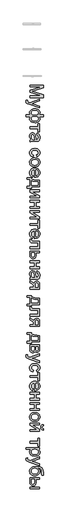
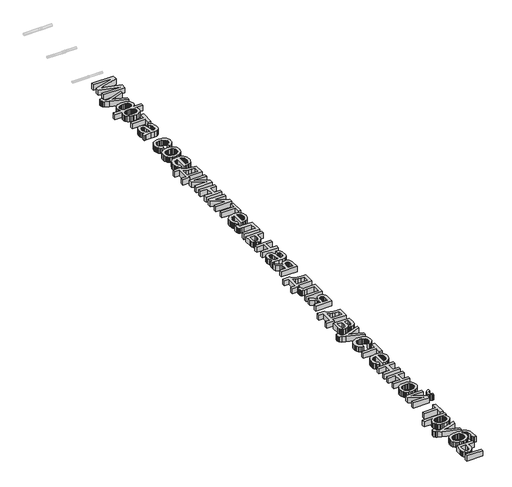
# One storey, part 27 of 33: 1 proxy.
"""IFC4 building model written with IfcOpenShell, lengths in millimetres."""

from ifc_helpers import new_model, si_unit, origin, origin_with_axes, place, context, project, spatial, polyline, outline, extrude, element, save

model = new_model("IFC4")

# Units and contexts
model_context = context("Model", 3, world=origin())
ifc_project = project(units=[si_unit("LENGTHUNIT", "METRE", prefix="MILLI")], contexts=[model_context])

# Site, building, storey
site = spatial("IfcSite", under=ifc_project)
building = spatial("IfcBuilding", under=site)
storey = spatial("IfcBuildingStorey", under=building, Name="Уровень 1", Elevation=0.0)

# Proxy
placement = place(None, origin())
element("IfcBuildingElementProxy", 1, Name="Надпись на модели 1", ObjectType="Надпись на модели 1", at=placement, inside=storey, context=model_context, shape_type="SweptSolid", body=[
    extrude(outline(polyline([(89124.4625724, -566.9517531), (89715.2318032, -566.9517531), (89715.2318032, -694.0190607), (89298.8375724, -814.8844454), (89211.8664186, -839.2594454), (89306.0491109, -865.6536761), (89715.2318032, -984.49983), (89715.2318032, -1111.5671377), (89124.4625724, -1111.5671377), (89124.4625724, -1037.7209838), (89641.3856493, -1037.7209838), (89124.4625724, -889.3075223), (89124.4625724, -789.2113684), (89641.3856493, -640.7979069), (89124.4625724, -640.7979069), (89124.4625724, -566.9517531)])), origin_with_axes(), (0.0, 0.0, 1.0), 150.0),
    extrude(outline(polyline([(88958.3087262, -1231.5671377), (89029.4144955, -1222.3363684), (89022.9241109, -1259.8363684), (89024.9613705, -1279.5599261), (89031.0731493, -1294.8844454), (89040.8267551, -1306.8195415), (89053.7894955, -1316.37483), (89108.1644955, -1336.5671377), (89126.0491109, -1342.3363684), (89558.3087262, -1185.4132915), (89558.3087262, -1263.2979069), (89317.4433416, -1346.5190607), (89221.0971878, -1375.5094454), (89306.1933416, -1404.49983), (89558.3087262, -1490.0286761), (89558.3087262, -1567.3363684), (89114.077957, -1416.3267531), (89017.7318032, -1377.0959838), (88986.9745916, -1357.0118492), (88965.6644955, -1334.2594454), (88953.2245916, -1307.8291569), (88949.077957, -1276.7113684), (88951.3856493, -1255.3291569), (88958.3087262, -1231.5671377)])), origin_with_axes(), (0.0, 0.0, 1.0), 150.0),
    extrude(outline(polyline([(89715.2318032, -1877.7209838), (89715.2318032, -1951.5671377), (89516.6260339, -1951.5671377), (89539.0358897, -1973.9769934), (89554.9193032, -1998.5142531), (89564.3844474, -2025.0707434), (89567.5394955, -2053.5382915), (89563.5280772, -2087.725491), (89551.4938224, -2118.171705), (89531.4367311, -2144.8769333), (89503.3568032, -2167.8411761), (89469.1921397, -2186.2982074), (89430.8808416, -2199.4818011), (89388.4229089, -2207.3919574), (89341.8183416, -2210.0286761), (89293.4875123, -2207.1891329), (89250.0334859, -2198.6705031), (89211.4562623, -2184.4727867), (89177.7558416, -2164.5959838), (89150.4015748, -2140.5004309), (89130.8628128, -2113.6464646), (89119.1395556, -2084.0340848), (89115.2318032, -2051.6632915), (89117.0346878, -2029.2714646), (89122.4433416, -2006.5190607), (89135.8928609, -1981.3147338), (89161.8183416, -1951.5671377), (88958.3087262, -1951.5671377), (88958.3087262, -1877.7209838), (89161.8183416, -1877.7209838), (89141.4818032, -1855.2570415), (89126.9144955, -1830.5575223), (89118.1524762, -1803.6945415), (89115.2318032, -1774.7402146), (89118.9637743, -1742.7570415), (89130.1596878, -1712.8652146), (89148.8195436, -1685.0647338), (89174.9433416, -1659.3555992), (89208.0172599, -1637.7750704), (89247.5274762, -1622.3604069), (89293.4739907, -1613.1116088), (89345.8568032, -1610.0286761), (89391.0461061, -1612.8186401), (89432.4313224, -1621.1885319), (89470.0124522, -1635.1383516), (89503.7894955, -1654.6680992), (89531.6801205, -1678.9123901), (89551.6019955, -1707.0058396), (89563.5551205, -1738.9484478), (89567.5394955, -1774.7402146), (89564.3844474, -1804.8303588), (89554.9193032, -1831.9277146), (89539.0358897, -1856.1765127), (89516.6260339, -1877.7209838), (89715.2318032, -1877.7209838)]), holes=[polyline([(89340.0875724, -1951.1344454), (89299.0403969, -1952.6714045), (89265.3219474, -1957.2822819), (89238.9322238, -1964.9670776), (89219.8712262, -1975.7257915), (89206.399171, -1988.8012122), (89196.7762743, -2003.4361281), (89191.0025363, -2019.6305391), (89189.077957, -2037.3844454), (89191.4442431, -2057.1125103), (89198.5431012, -2075.3351665), (89210.3745315, -2092.0524141), (89226.9385339, -2107.2642531), (89248.4875123, -2119.9159958), (89275.2738705, -2128.952955), (89307.2976085, -2134.3751305), (89344.5587262, -2136.1825223), (89379.8051205, -2134.514854), (89410.2558416, -2129.5118492), (89435.9108897, -2121.1735079), (89456.7702647, -2109.49983), (89472.9241109, -2095.2119694), (89484.4625724, -2079.03108), (89491.3856493, -2060.9571617), (89493.6933416, -2040.9902146), (89491.2909979, -2020.0181593), (89484.0839666, -2001.8135319), (89472.0722479, -1986.3763324), (89455.2558416, -1973.7065607), (89433.6437623, -1963.8312603), (89407.2450243, -1956.7774742), (89376.0596277, -1952.5452026), (89340.0875724, -1951.1344454)]), polyline([(89347.4433416, -1683.87483), (89308.2756734, -1685.7227867), (89275.0034378, -1691.2666569), (89247.6266349, -1700.5064406), (89226.1452647, -1713.4421377), (89209.9283176, -1729.1182194), (89198.3447839, -1746.5791569), (89191.3946637, -1765.8249502), (89189.077957, -1786.8555992), (89191.3811421, -1808.3414766), (89198.2906974, -1826.9337242), (89209.8066229, -1842.632342), (89225.9289186, -1855.43733), (89246.6575844, -1865.3757314), (89271.9926205, -1872.4745896), (89301.9340267, -1876.7339045), (89336.4818032, -1878.1536761), (89373.3282575, -1876.6617891), (89405.2618512, -1872.1861281), (89432.2825844, -1864.726693), (89454.390457, -1854.2834838), (89471.585469, -1840.8294574), (89483.8676205, -1824.3375704), (89491.2369113, -1804.8078228), (89493.6933416, -1782.2402146), (89491.2955051, -1761.4709838), (89484.1019955, -1742.7209838), (89472.1128128, -1725.9902146), (89455.327957, -1711.2786761), (89434.1981493, -1699.2894934), (89409.1741109, -1690.7257915), (89380.2558416, -1685.5875704), (89347.4433416, -1683.87483)])]), origin_with_axes(), (0.0, 0.0, 1.0), 150.0),
    extrude(outline(polyline([(89558.3087262, -2265.4132915), (89558.3087262, -2616.1825223), (89484.4625724, -2616.1825223), (89484.4625724, -2477.7209838), (89124.4625724, -2477.7209838), (89124.4625724, -2403.87483), (89484.4625724, -2403.87483), (89484.4625724, -2265.4132915), (89558.3087262, -2265.4132915)])), origin_with_axes(), (0.0, 0.0, 1.0), 150.0),
    extrude(outline(polyline([(89179.8471878, -2957.7209838), (89149.5947839, -2922.4385319), (89129.7991109, -2886.1104069), (89118.8736301, -2847.9072819), (89115.2318032, -2806.99983), (89117.422308, -2774.1197218), (89123.9938224, -2745.2870896), (89134.9463464, -2720.5019333), (89150.2798801, -2699.7642531), (89169.0208657, -2683.3895535), (89190.1957455, -2671.6933396), (89213.8045195, -2664.6756112), (89239.8471878, -2662.3363684), (89270.4601686, -2665.8700223), (89298.2606493, -2676.4709838), (89322.0587262, -2692.8231473), (89340.6644955, -2713.6104069), (89354.7269955, -2738.0394934), (89364.8952647, -2765.3171377), (89376.0010339, -2829.2113684), (89387.6837262, -2904.7161761), (89401.3856493, -2957.2882915), (89417.827957, -2957.7209838), (89450.7846878, -2952.6368492), (89462.9902166, -2946.2816809), (89472.3471878, -2937.3844454), (89481.6861301, -2922.0058396), (89488.3568032, -2903.2738684), (89493.6933416, -2855.74983), (89490.1416589, -2811.7594454), (89479.4866109, -2781.0382915), (89459.781082, -2760.0887723), (89429.077957, -2745.4132915), (89438.3087262, -2671.5671377), (89478.6933416, -2684.3856473), (89510.4241109, -2703.5142531), (89534.6909378, -2730.7378107), (89552.6837262, -2767.8411761), (89563.8255532, -2813.2197819), (89567.5394955, -2865.2690607), (89564.2582455, -2915.1909357), (89554.4144955, -2954.7642531), (89539.6128128, -2984.6019934), (89521.4577647, -3005.3171377), (89499.0118512, -3019.0551184), (89471.3375724, -3027.9613684), (89406.7221878, -3031.5671377), (89314.8471878, -3031.5671377), (89186.5539186, -3035.3171377), (89154.8411782, -3040.8700223), (89124.4625724, -3050.0286761), (89124.4625724, -2976.1825223), (89150.1356493, -2964.3555992), (89179.8471878, -2957.7209838)]), holes=[polyline([(89327.5394955, -2957.7209838), (89315.2438224, -2908.1055992), (89304.8952647, -2838.5863684), (89292.9241109, -2775.0527146), (89284.7390147, -2758.5202627), (89273.452957, -2746.2786761), (89259.9313224, -2738.7065607), (89245.0394955, -2736.1825223), (89223.0803609, -2741.6813204), (89205.0875724, -2758.1777146), (89193.0803609, -2785.3111281), (89189.077957, -2822.7209838), (89193.4950243, -2862.3844454), (89206.7462262, -2897.4325223), (89226.2714666, -2925.8459838), (89249.5106493, -2945.6055992), (89273.452957, -2954.3676184), (89306.6260339, -2957.2882915), (89327.5394955, -2957.7209838)])]), origin_with_axes(), (0.0, 0.0, 1.0), 150.0),
    extrude(outline(polyline([(89281.3856493, -3640.7979069), (89272.1548801, -3714.6440607), (89237.3096277, -3706.6122098), (89206.4757936, -3694.0551184), (89179.6533777, -3676.9727867), (89156.8423801, -3655.3652146), (89138.6377527, -3630.1428588), (89125.6344474, -3602.2161761), (89117.8324642, -3571.5851665), (89115.2318032, -3538.24983), (89118.8601085, -3496.8330631), (89129.7450243, -3459.6981473), (89147.8865508, -3426.8450824), (89173.2846878, -3398.2738684), (89205.461671, -3375.147366), (89243.9397359, -3358.6284357), (89288.7188825, -3348.7170776), (89339.7991109, -3345.4132915), (89405.5142551, -3351.0563204), (89435.08607, -3358.1101064), (89462.4673801, -3367.9854069), (89487.1083056, -3380.74983), (89508.4589666, -3396.4709838), (89526.5193633, -3415.1488684), (89541.2894955, -3436.7834838), (89552.7738705, -3460.3967651), (89560.9769955, -3485.0106473), (89565.8988705, -3510.6251305), (89567.5394955, -3537.2402146), (89565.2858897, -3570.0031353), (89558.5250724, -3599.6380511), (89547.2570436, -3626.1449622), (89531.4818032, -3649.5238684), (89511.5599282, -3669.3781353), (89487.8519955, -3685.3111281), (89460.3580051, -3697.3228468), (89429.077957, -3705.4132915), (89419.8471878, -3631.5671377), (89452.0647359, -3618.171705), (89475.1596878, -3597.31233), (89489.0599282, -3570.1428588), (89493.6933416, -3537.8171377), (89491.4126926, -3512.725491), (89484.5707455, -3490.0947819), (89473.1675003, -3469.9250103), (89457.202957, -3452.2161761), (89436.3075243, -3437.7976064), (89410.1116109, -3427.4986281), (89378.6152166, -3421.319241), (89341.8183416, -3419.2594454), (89304.4670796, -3421.2741689), (89272.6056012, -3427.3183396), (89246.2339065, -3437.3919574), (89225.3519955, -3451.4950223), (89209.4821037, -3468.8522939), (89198.1464666, -3488.6885319), (89191.3450844, -3511.0037362), (89189.077957, -3535.7979069), (89194.7390147, -3574.0370896), (89201.8153368, -3590.5740487), (89211.7221878, -3605.3892531), (89224.5677407, -3618.0680391), (89240.4601686, -3628.1957434), (89259.3994714, -3635.772366), (89281.3856493, -3640.7979069)])), origin_with_axes(), (0.0, 0.0, 1.0), 150.0),
    extrude(outline(polyline([(89341.3856493, -3760.7979069), (89397.5725484, -3764.7912963), (89445.9890147, -3776.7714646), (89486.6350484, -3796.7384117), (89519.5106493, -3824.6921377), (89540.5232695, -3852.8351665), (89555.5322839, -3883.8988684), (89564.5376926, -3917.8832434), (89567.5394955, -3954.7882915), (89563.8841469, -3995.5289766), (89552.9181012, -4032.3664165), (89534.6413585, -4065.3006112), (89509.0539186, -4094.3315607), (89477.0211662, -4118.0259718), (89439.4084859, -4134.9505511), (89396.2158777, -4145.1052987), (89347.4433416, -4148.4902146), (89307.9150964, -4146.9938204), (89272.8399762, -4142.5046377), (89242.2179811, -4135.0226665), (89216.0491109, -4124.5479069), (89193.445445, -4111.211068), (89173.5190628, -4095.1428588), (89156.2699642, -4076.3432795), (89141.6981493, -4054.81233), (89130.1191229, -4031.3883516), (89121.8483897, -4006.9096857), (89116.8859498, -3981.3763324), (89115.2318032, -3954.7882915), (89118.8736301, -3913.4526545), (89129.7991109, -3876.2726665), (89148.0082455, -3843.2483276), (89173.5010339, -3814.3796377), (89205.8447839, -3790.9376305), (89244.6068032, -3774.1933396), (89289.7870916, -3764.1467651), (89341.3856493, -3760.7979069)]), holes=[polyline([(89341.5298801, -3834.6440607), (89305.71107, -3836.780479), (89274.6969474, -3843.1897338), (89248.4875123, -3853.8718252), (89227.0827647, -3868.8267531), (89210.4556613, -3887.0178588), (89198.5791589, -3907.4084838), (89191.4532575, -3929.9986281), (89189.077957, -3954.7882915), (89191.4667791, -3979.4517531), (89198.6332455, -4001.9517531), (89210.5773561, -4022.2882915), (89227.2991109, -4040.4613684), (89248.9156974, -4055.4162963), (89275.5443032, -4066.0983877), (89307.1849282, -4072.5076425), (89343.8375724, -4074.6440607), (89378.5205652, -4072.4941208), (89408.7233897, -4066.0443011), (89434.446046, -4055.2946016), (89455.6885339, -4040.2450223), (89472.3156373, -4022.0043372), (89484.1921397, -4001.6813204), (89491.3180412, -3979.2759718), (89493.6933416, -3954.7882915), (89491.3270556, -3929.9986281), (89484.2281974, -3907.4084838), (89472.3967671, -3887.0178588), (89455.8327647, -3868.8267531), (89434.4911181, -3853.8718252), (89408.3267551, -3843.1897338), (89377.3396758, -3836.780479), (89341.5298801, -3834.6440607)])]), origin_with_axes(), (0.0, 0.0, 1.0), 150.0),
    extrude(outline(polyline([(89253.6933416, -4535.3171377), (89244.4625724, -4607.7209838), (89215.4631734, -4596.6197218), (89189.9072839, -4581.6332434), (89167.7949041, -4562.7615487), (89149.1260339, -4540.0046377), (89134.297308, -4513.5968853), (89123.7053609, -4483.7726665), (89117.3501926, -4450.5319814), (89115.2318032, -4413.87483), (89118.8871517, -4368.0545175), (89129.8531974, -4327.2281954), (89148.1299402, -4291.3958636), (89173.7173801, -4260.5575223), (89205.9033777, -4235.7588444), (89243.9757936, -4218.0455031), (89287.9346277, -4207.4174982), (89337.7798801, -4203.87483), (89389.3153368, -4207.4535559), (89434.7390147, -4218.1897338), (89474.0509137, -4236.0833636), (89507.2510339, -4261.1344454), (89533.6272359, -4291.8916569), (89552.4673801, -4326.9036761), (89563.7714666, -4366.1705031), (89567.5394955, -4409.6921377), (89563.7804811, -4451.8120295), (89552.5034378, -4489.9024742), (89533.7083657, -4523.9634718), (89507.3952647, -4553.9950223), (89474.2672599, -4578.5097458), (89435.0274762, -4596.0202627), (89389.6759137, -4606.5265728), (89338.2125724, -4610.0286761), (89318.3087262, -4609.5959838), (89318.3087262, -4277.7209838), (89288.8405772, -4281.9983276), (89263.0322839, -4290.5034357), (89240.8838464, -4303.2363083), (89222.3952647, -4320.1969454), (89207.8189426, -4340.4478468), (89197.4072839, -4363.0515127), (89191.1602887, -4388.007943), (89189.077957, -4415.3171377), (89192.9361301, -4454.6200223), (89204.5106493, -4487.7209838), (89224.5226686, -4514.6200223), (89253.6933416, -4535.3171377)]), holes=[polyline([(89392.1548801, -4277.7209838), (89392.1548801, -4536.1825223), (89431.1693032, -4526.1945415), (89446.5118512, -4517.6037963), (89459.077957, -4506.6152146), (89474.2221878, -4486.4769934), (89485.0394955, -4463.56233), (89491.5298801, -4437.8712242), (89493.6933416, -4409.4036761), (89491.9670796, -4383.4376305), (89486.7882936, -4359.6260319), (89478.1569835, -4337.9688805), (89466.0731493, -4318.4661761), (89451.0956854, -4302.100491), (89433.7834859, -4289.8543973), (89414.1365508, -4281.7278949), (89392.1548801, -4277.7209838)])]), origin_with_axes(), (0.0, 0.0, 1.0), 150.0),
    extrude(outline(polyline([(89558.3087262, -4748.4902146), (89558.3087262, -5025.4132915), (89198.3087262, -5025.4132915), (89198.3087262, -5080.7979069), (89004.4625724, -5080.7979069), (89004.4625724, -5006.9517531), (89124.4625724, -5006.9517531), (89124.4625724, -4702.3363684), (89004.4625724, -4702.3363684), (89004.4625724, -4628.4902146), (89198.3087262, -4628.4902146), (89198.3087262, -4674.6440607), (89226.1768152, -4692.6774141), (89258.9397359, -4708.1957434), (89296.5974883, -4721.1990487), (89339.1500724, -4731.68733), (89438.9397359, -4745.1188204), (89558.3087262, -4748.4902146)]), holes=[polyline([(89484.4625724, -4813.1055992), (89394.0479089, -4807.0479069), (89316.2173801, -4795.7979069), (89250.9709859, -4779.3555992), (89198.3087262, -4757.7209838), (89198.3087262, -4951.5671377), (89484.4625724, -4951.5671377), (89484.4625724, -4813.1055992)])]), origin_with_axes(), (0.0, 0.0, 1.0), 150.0),
    extrude(outline(polyline([(89558.3087262, -5163.87483), (89558.3087262, -5237.7209838), (89227.4433416, -5237.7209838), (89558.3087262, -5419.1632915), (89558.3087262, -5514.6440607), (89124.4625724, -5514.6440607), (89124.4625724, -5440.7979069), (89453.3087262, -5440.7979069), (89124.4625724, -5260.5094454), (89124.4625724, -5163.87483), (89558.3087262, -5163.87483)])), origin_with_axes(), (0.0, 0.0, 1.0), 150.0),
    extrude(outline(polyline([(89558.3087262, -5625.4132915), (89558.3087262, -5699.2594454), (89392.1548801, -5699.2594454), (89392.1548801, -5893.1055992), (89558.3087262, -5893.1055992), (89558.3087262, -5966.9517531), (89124.4625724, -5966.9517531), (89124.4625724, -5893.1055992), (89318.3087262, -5893.1055992), (89318.3087262, -5699.2594454), (89124.4625724, -5699.2594454), (89124.4625724, -5625.4132915), (89558.3087262, -5625.4132915)])), origin_with_axes(), (0.0, 0.0, 1.0), 150.0),
    extrude(outline(polyline([(89558.3087262, -6077.7209838), (89558.3087262, -6151.5671377), (89227.4433416, -6151.5671377), (89558.3087262, -6333.0094454), (89558.3087262, -6428.4902146), (89124.4625724, -6428.4902146), (89124.4625724, -6354.6440607), (89453.3087262, -6354.6440607), (89124.4625724, -6174.3555992), (89124.4625724, -6077.7209838), (89558.3087262, -6077.7209838)])), origin_with_axes(), (0.0, 0.0, 1.0), 150.0),
    extrude(outline(polyline([(89558.3087262, -6502.3363684), (89558.3087262, -6853.1055992), (89484.4625724, -6853.1055992), (89484.4625724, -6714.6440607), (89124.4625724, -6714.6440607), (89124.4625724, -6640.7979069), (89484.4625724, -6640.7979069), (89484.4625724, -6502.3363684), (89558.3087262, -6502.3363684)])), origin_with_axes(), (0.0, 0.0, 1.0), 150.0),
    extrude(outline(polyline([(89253.6933416, -7221.4709838), (89244.4625724, -7293.87483), (89215.4631734, -7282.773568), (89189.9072839, -7267.7870896), (89167.7949041, -7248.9153949), (89149.1260339, -7226.1584838), (89134.297308, -7199.7507314), (89123.7053609, -7169.9265127), (89117.3501926, -7136.6858276), (89115.2318032, -7100.0286761), (89118.8871517, -7054.2083636), (89129.8531974, -7013.3820415), (89148.1299402, -6977.5497098), (89173.7173801, -6946.7113684), (89205.9033777, -6921.9126906), (89243.9757936, -6904.1993492), (89287.9346277, -6893.5713444), (89337.7798801, -6890.0286761), (89389.3153368, -6893.6074021), (89434.7390147, -6904.34358), (89474.0509137, -6922.2372098), (89507.2510339, -6947.2882915), (89533.6272359, -6978.0455031), (89552.4673801, -7013.0575223), (89563.7714666, -7052.3243492), (89567.5394955, -7095.8459838), (89563.7804811, -7137.9658756), (89552.5034378, -7176.0563204), (89533.7083657, -7210.117318), (89507.3952647, -7240.1488684), (89474.2672599, -7264.663592), (89435.0274762, -7282.1741088), (89389.6759137, -7292.6804189), (89338.2125724, -7296.1825223), (89318.3087262, -7295.74983), (89318.3087262, -6963.87483), (89288.8405772, -6968.1521737), (89263.0322839, -6976.6572819), (89240.8838464, -6989.3901545), (89222.3952647, -7006.3507915), (89207.8189426, -7026.601693), (89197.4072839, -7049.2053588), (89191.1602887, -7074.1617891), (89189.077957, -7101.4709838), (89192.9361301, -7140.7738684), (89204.5106493, -7173.87483), (89224.5226686, -7200.7738684), (89253.6933416, -7221.4709838)]), holes=[polyline([(89392.1548801, -6963.87483), (89392.1548801, -7222.3363684), (89431.1693032, -7212.3483877), (89446.5118512, -7203.7576425), (89459.077957, -7192.7690607), (89474.2221878, -7172.6308396), (89485.0394955, -7149.7161761), (89491.5298801, -7124.0250704), (89493.6933416, -7095.5575223), (89491.9670796, -7069.5914766), (89486.7882936, -7045.7798781), (89478.1569835, -7024.1227266), (89466.0731493, -7004.6200223), (89451.0956854, -6988.2543372), (89433.7834859, -6976.0082434), (89414.1365508, -6967.881741), (89392.1548801, -6963.87483)])]), origin_with_axes(), (0.0, 0.0, 1.0), 150.0),
    extrude(outline(polyline([(89558.3087262, -7406.9517531), (89558.3087262, -7739.2594454), (89124.8952647, -7739.2594454), (89124.8952647, -7665.4132915), (89484.4625724, -7665.4132915), (89484.4625724, -7480.7979069), (89277.4914186, -7480.7979069), (89217.4193032, -7479.5539165), (89182.0106493, -7475.8219454), (89160.3940628, -7466.5010319), (89141.6981493, -7448.4902146), (89128.7714666, -7421.1584838), (89124.4625724, -7383.87483), (89128.2125724, -7323.87483), (89198.3087262, -7323.87483), (89198.3087262, -7356.9036761), (89202.8519955, -7390.2930992), (89208.7293993, -7398.640455), (89217.2750724, -7403.6344454), (89281.6741109, -7406.9517531), (89558.3087262, -7406.9517531)])), origin_with_axes(), (0.0, 0.0, 1.0), 150.0),
    extrude(outline(polyline([(89558.3087262, -7850.0286761), (89558.3087262, -7923.87483), (89401.3856493, -7923.87483), (89401.3856493, -8008.9709838), (89399.0734498, -8048.2558396), (89392.1368512, -8082.7450223), (89380.5758537, -8112.4385319), (89364.390457, -8137.3363684), (89344.1395556, -8157.0238684), (89320.3820436, -8171.0863684), (89293.117921, -8179.5238684), (89262.3471878, -8182.3363684), (89234.8937623, -8179.9430391), (89209.5046397, -8172.7630511), (89186.17982, -8160.7964045), (89164.9193032, -8144.0430992), (89147.2194835, -8122.0253708), (89134.5767551, -8094.265455), (89126.9911181, -8060.7633516), (89124.4625724, -8021.5190607), (89124.4625724, -7850.0286761), (89558.3087262, -7850.0286761)]), holes=[polyline([(89198.3087262, -7923.87483), (89198.3087262, -7992.8171377), (89202.1849282, -8046.3087242), (89207.0301806, -8066.3342651), (89213.8135339, -8081.8796377), (89222.6521758, -8093.5217651), (89233.6632936, -8101.8375704), (89246.8468873, -8106.8270535), (89262.202957, -8108.4902146), (89286.3255532, -8103.5683396), (89307.6356493, -8088.8027146), (89316.343582, -8075.9706833), (89322.5635339, -8057.1620896), (89327.5394955, -8001.6152146), (89327.5394955, -7923.87483), (89198.3087262, -7923.87483)])]), origin_with_axes(), (0.0, 0.0, 1.0), 150.0),
    extrude(outline(polyline([(89558.3087262, -8274.6440607), (89558.3087262, -8348.4902146), (89392.1548801, -8348.4902146), (89392.1548801, -8542.3363684), (89558.3087262, -8542.3363684), (89558.3087262, -8616.1825223), (89124.4625724, -8616.1825223), (89124.4625724, -8542.3363684), (89318.3087262, -8542.3363684), (89318.3087262, -8348.4902146), (89124.4625724, -8348.4902146), (89124.4625724, -8274.6440607), (89558.3087262, -8274.6440607)])), origin_with_axes(), (0.0, 0.0, 1.0), 150.0),
    extrude(outline(polyline([(89179.8471878, -9003.87483), (89149.5947839, -8968.5923781), (89129.7991109, -8932.2642531), (89118.8736301, -8894.0611281), (89115.2318032, -8853.1536761), (89117.422308, -8820.273568), (89123.9938224, -8791.4409357), (89134.9463464, -8766.6557795), (89150.2798801, -8745.9180992), (89169.0208657, -8729.5433997), (89190.1957455, -8717.8471857), (89213.8045195, -8710.8294574), (89239.8471878, -8708.4902146), (89270.4601686, -8712.0238684), (89298.2606493, -8722.62483), (89322.0587262, -8738.9769934), (89340.6644955, -8759.7642531), (89354.7269955, -8784.1933396), (89364.8952647, -8811.4709838), (89376.0010339, -8875.3652146), (89387.6837262, -8950.8700223), (89401.3856493, -9003.4421377), (89417.827957, -9003.87483), (89450.7846878, -8998.7906954), (89462.9902166, -8992.4355271), (89472.3471878, -8983.5382915), (89481.6861301, -8968.1596857), (89488.3568032, -8949.4277146), (89493.6933416, -8901.9036761), (89490.1416589, -8857.9132915), (89479.4866109, -8827.1921377), (89459.781082, -8806.2426184), (89429.077957, -8791.5671377), (89438.3087262, -8717.7209838), (89478.6933416, -8730.5394934), (89510.4241109, -8749.6680992), (89534.6909378, -8776.8916569), (89552.6837262, -8813.9950223), (89563.8255532, -8859.3736281), (89567.5394955, -8911.4229069), (89564.2582455, -8961.3447819), (89554.4144955, -9000.9180992), (89539.6128128, -9030.7558396), (89521.4577647, -9051.4709838), (89499.0118512, -9065.2089646), (89471.3375724, -9074.1152146), (89406.7221878, -9077.7209838), (89314.8471878, -9077.7209838), (89186.5539186, -9081.4709838), (89154.8411782, -9087.0238684), (89124.4625724, -9096.1825223), (89124.4625724, -9022.3363684), (89150.1356493, -9010.5094454), (89179.8471878, -9003.87483)]), holes=[polyline([(89327.5394955, -9003.87483), (89315.2438224, -8954.2594454), (89304.8952647, -8884.7402146), (89292.9241109, -8821.2065607), (89284.7390147, -8804.6741088), (89273.452957, -8792.4325223), (89259.9313224, -8784.8604069), (89245.0394955, -8782.3363684), (89223.0803609, -8787.8351665), (89205.0875724, -8804.3315607), (89193.0803609, -8831.4649742), (89189.077957, -8868.87483), (89193.4950243, -8908.5382915), (89206.7462262, -8943.5863684), (89226.2714666, -8971.99983), (89249.5106493, -8991.7594454), (89273.452957, -9000.5214646), (89306.6260339, -9003.4421377), (89327.5394955, -9003.87483)])]), origin_with_axes(), (0.0, 0.0, 1.0), 150.0),
    extrude(outline(polyline([(89558.3087262, -9511.5671377), (89124.4625724, -9511.5671377), (89124.4625724, -9437.7209838), (89290.6164186, -9437.7209838), (89290.6164186, -9397.4805992), (89288.2726686, -9365.3892531), (89281.2414186, -9342.6729069), (89260.796707, -9320.7858877), (89218.2125724, -9291.1825223), (89124.4625724, -9232.3363684), (89124.4625724, -9146.9517531), (89243.0202647, -9221.0863684), (89285.5683416, -9253.8267531), (89297.9721878, -9269.2233877), (89304.4625724, -9283.9709838), (89310.4571637, -9256.8555992), (89319.9313224, -9233.4902146), (89332.8850484, -9213.87483), (89349.3183416, -9198.0094454), (89368.1765147, -9185.7678588), (89388.4048801, -9177.0238684), (89410.0034378, -9171.7774742), (89432.9721878, -9170.0286761), (89459.5647359, -9172.4174982), (89483.5250724, -9179.5839646), (89504.8531974, -9191.5280752), (89523.5491109, -9208.24983), (89538.7564426, -9229.4968252), (89549.6188224, -9255.0166569), (89556.1362503, -9284.8093252), (89558.3087262, -9318.87483), (89558.3087262, -9511.5671377)]), holes=[polyline([(89484.4625724, -9437.7209838), (89484.4625724, -9340.3652146), (89480.1897359, -9290.0827627), (89474.8486902, -9273.0950824), (89467.3712262, -9261.5430992), (89448.8195436, -9248.2918973), (89427.3471878, -9243.87483), (89412.1984498, -9245.5019333), (89399.2041589, -9250.3832434), (89388.3643152, -9258.5187603), (89379.6789186, -9269.9084838), (89373.0217671, -9285.4358276), (89368.2666589, -9305.984205), (89364.4625724, -9362.1440607), (89364.4625724, -9437.7209838), (89484.4625724, -9437.7209838)])]), origin_with_axes(), (0.0, 0.0, 1.0), 150.0),
    extrude(outline(polyline([(89558.3087262, -9917.7209838), (89558.3087262, -10194.6440607), (89198.3087262, -10194.6440607), (89198.3087262, -10250.0286761), (89004.4625724, -10250.0286761), (89004.4625724, -10176.1825223), (89124.4625724, -10176.1825223), (89124.4625724, -9871.5671377), (89004.4625724, -9871.5671377), (89004.4625724, -9797.7209838), (89198.3087262, -9797.7209838), (89198.3087262, -9843.87483), (89226.1768152, -9861.9081833), (89258.9397359, -9877.4265127), (89296.5974883, -9890.429818), (89339.1500724, -9900.9180992), (89438.9397359, -9914.3495896), (89558.3087262, -9917.7209838)]), holes=[polyline([(89484.4625724, -9982.3363684), (89394.0479089, -9976.2786761), (89316.2173801, -9965.0286761), (89250.9709859, -9948.5863684), (89198.3087262, -9926.9517531), (89198.3087262, -10120.7979069), (89484.4625724, -10120.7979069), (89484.4625724, -9982.3363684)])]), origin_with_axes(), (0.0, 0.0, 1.0), 150.0),
    extrude(outline(polyline([(89558.3087262, -10370.0286761), (89558.3087262, -10702.3363684), (89124.8952647, -10702.3363684), (89124.8952647, -10628.4902146), (89484.4625724, -10628.4902146), (89484.4625724, -10443.87483), (89277.4914186, -10443.87483), (89217.4193032, -10442.6308396), (89182.0106493, -10438.8988684), (89160.3940628, -10429.577955), (89141.6981493, -10411.5671377), (89128.7714666, -10384.2354069), (89124.4625724, -10346.9517531), (89128.2125724, -10286.9517531), (89198.3087262, -10286.9517531), (89198.3087262, -10319.9805992), (89202.8519955, -10353.3700223), (89208.7293993, -10361.7173781), (89217.2750724, -10366.7113684), (89281.6741109, -10370.0286761), (89558.3087262, -10370.0286761)])), origin_with_axes(), (0.0, 0.0, 1.0), 150.0),
    extrude(outline(polyline([(89558.3087262, -11145.4132915), (89124.4625724, -11145.4132915), (89124.4625724, -11071.5671377), (89290.6164186, -11071.5671377), (89290.6164186, -11031.3267531), (89288.2726686, -10999.2354069), (89281.2414186, -10976.5190607), (89260.796707, -10954.6320415), (89218.2125724, -10925.0286761), (89124.4625724, -10866.1825223), (89124.4625724, -10780.7979069), (89243.0202647, -10854.9325223), (89285.5683416, -10887.6729069), (89297.9721878, -10903.0695415), (89304.4625724, -10917.8171377), (89310.4571637, -10890.7017531), (89319.9313224, -10867.3363684), (89332.8850484, -10847.7209838), (89349.3183416, -10831.8555992), (89368.1765147, -10819.6140127), (89388.4048801, -10810.8700223), (89410.0034378, -10805.6236281), (89432.9721878, -10803.87483), (89459.5647359, -10806.2636521), (89483.5250724, -10813.4301184), (89504.8531974, -10825.374229), (89523.5491109, -10842.0959838), (89538.7564426, -10863.342979), (89549.6188224, -10888.8628107), (89556.1362503, -10918.655479), (89558.3087262, -10952.7209838), (89558.3087262, -11145.4132915)]), holes=[polyline([(89484.4625724, -11071.5671377), (89484.4625724, -10974.2113684), (89480.1897359, -10923.9289165), (89474.8486902, -10906.9412362), (89467.3712262, -10895.3892531), (89448.8195436, -10882.1380511), (89427.3471878, -10877.7209838), (89412.1984498, -10879.3480872), (89399.2041589, -10884.2293973), (89388.3643152, -10892.3649141), (89379.6789186, -10903.7546377), (89373.0217671, -10919.2819814), (89368.2666589, -10939.8303588), (89364.4625724, -10995.9902146), (89364.4625724, -11071.5671377), (89484.4625724, -11071.5671377)])]), origin_with_axes(), (0.0, 0.0, 1.0), 150.0),
    extrude(outline(polyline([(89558.3087262, -11551.5671377), (89558.3087262, -11828.4902146), (89198.3087262, -11828.4902146), (89198.3087262, -11883.87483), (89004.4625724, -11883.87483), (89004.4625724, -11810.0286761), (89124.4625724, -11810.0286761), (89124.4625724, -11505.4132915), (89004.4625724, -11505.4132915), (89004.4625724, -11431.5671377), (89198.3087262, -11431.5671377), (89198.3087262, -11477.7209838), (89226.1768152, -11495.7543372), (89258.9397359, -11511.2726665), (89296.5974883, -11524.2759718), (89339.1500724, -11534.7642531), (89438.9397359, -11548.1957434), (89558.3087262, -11551.5671377)]), holes=[polyline([(89484.4625724, -11616.1825223), (89394.0479089, -11610.12483), (89316.2173801, -11598.87483), (89250.9709859, -11582.4325223), (89198.3087262, -11560.7979069), (89198.3087262, -11754.6440607), (89484.4625724, -11754.6440607), (89484.4625724, -11616.1825223)])]), origin_with_axes(), (0.0, 0.0, 1.0), 150.0),
    extrude(outline(polyline([(89558.3087262, -11966.9517531), (89558.3087262, -12129.6440607), (89555.8387743, -12181.9457434), (89548.4289186, -12218.8507915), (89534.4385339, -12246.0022338), (89512.2269955, -12269.0430992), (89483.2906974, -12284.7822819), (89449.1260339, -12290.0286761), (89421.5959859, -12286.8555992), (89397.8519955, -12277.3363684), (89377.7858897, -12261.4349261), (89361.2894955, -12239.1152146), (89345.9469474, -12266.4469454), (89321.265457, -12288.7305992), (89289.1921397, -12303.5503107), (89251.6741109, -12308.4902146), (89221.4487503, -12304.3886521), (89195.3880532, -12295.9781954), (89173.4920195, -12283.2588444), (89155.7606493, -12266.2305992), (89142.0677407, -12244.8664165), (89132.2870916, -12219.1392531), (89126.4187022, -12189.0491088), (89124.4625724, -12154.5959838), (89124.4625724, -11966.9517531), (89558.3087262, -11966.9517531)]), holes=[polyline([(89392.1548801, -12040.7979069), (89392.1548801, -12113.7786761), (89395.9048801, -12173.9950223), (89401.5298801, -12189.49983), (89410.9048801, -12203.2738684), (89423.3087262, -12212.9553588), (89438.0202647, -12216.1825223), (89450.0184618, -12214.7672579), (89460.0515147, -12210.5214646), (89468.1194234, -12203.4451425), (89474.2221878, -12193.5382915), (89481.9024762, -12162.8531954), (89484.4625724, -12116.0863684), (89484.4625724, -12040.7979069), (89392.1548801, -12040.7979069)]), polyline([(89198.3087262, -12040.7979069), (89198.3087262, -12131.37483), (89201.6440628, -12180.7378107), (89211.6500724, -12211.7113684), (89219.5331854, -12221.311729), (89229.8411782, -12228.3339646), (89257.7318032, -12234.6440607), (89276.2113705, -12231.4890127), (89293.2846878, -12222.0238684), (89306.6440628, -12207.4926184), (89313.9818032, -12189.1392531), (89318.3087262, -12124.1632915), (89318.3087262, -12040.7979069), (89198.3087262, -12040.7979069)])]), origin_with_axes(), (0.0, 0.0, 1.0), 150.0),
    extrude(outline(polyline([(88958.3087262, -12400.7979069), (89029.4144955, -12391.5671377), (89022.9241109, -12429.0671377), (89024.9613705, -12448.7906954), (89031.0731493, -12464.1152146), (89040.8267551, -12476.0503107), (89053.7894955, -12485.6055992), (89108.1644955, -12505.7979069), (89126.0491109, -12511.5671377), (89558.3087262, -12354.6440607), (89558.3087262, -12432.5286761), (89317.4433416, -12515.74983), (89221.0971878, -12544.7402146), (89306.1933416, -12573.7305992), (89558.3087262, -12659.2594454), (89558.3087262, -12736.5671377), (89114.077957, -12585.5575223), (89017.7318032, -12546.3267531), (88986.9745916, -12526.2426184), (88965.6644955, -12503.4902146), (88953.2245916, -12477.0599261), (88949.077957, -12445.9421377), (88951.3856493, -12424.5599261), (88958.3087262, -12400.7979069)])), origin_with_axes(), (0.0, 0.0, 1.0), 150.0),
    extrude(outline(polyline([(89281.3856493, -13074.6440607), (89272.1548801, -13148.4902146), (89237.3096277, -13140.4583636), (89206.4757936, -13127.9012723), (89179.6533777, -13110.8189406), (89156.8423801, -13089.2113684), (89138.6377527, -13063.9890127), (89125.6344474, -13036.06233), (89117.8324642, -13005.4313204), (89115.2318032, -12972.0959838), (89118.8601085, -12930.679217), (89129.7450243, -12893.5443011), (89147.8865508, -12860.6912362), (89173.2846878, -12832.1200223), (89205.461671, -12808.9935199), (89243.9397359, -12792.4745896), (89288.7188825, -12782.5632314), (89339.7991109, -12779.2594454), (89405.5142551, -12784.9024742), (89435.08607, -12791.9562603), (89462.4673801, -12801.8315607), (89487.1083056, -12814.5959838), (89508.4589666, -12830.3171377), (89526.5193633, -12848.9950223), (89541.2894955, -12870.6296377), (89552.7738705, -12894.2429189), (89560.9769955, -12918.8568011), (89565.8988705, -12944.4712843), (89567.5394955, -12971.0863684), (89565.2858897, -13003.8492891), (89558.5250724, -13033.484205), (89547.2570436, -13059.991116), (89531.4818032, -13083.3700223), (89511.5599282, -13103.2242891), (89487.8519955, -13119.1572819), (89460.3580051, -13131.1690006), (89429.077957, -13139.2594454), (89419.8471878, -13065.4132915), (89452.0647359, -13052.0178588), (89475.1596878, -13031.1584838), (89489.0599282, -13003.9890127), (89493.6933416, -12971.6632915), (89491.4126926, -12946.5716449), (89484.5707455, -12923.9409357), (89473.1675003, -12903.7711641), (89457.202957, -12886.06233), (89436.3075243, -12871.6437603), (89410.1116109, -12861.3447819), (89378.6152166, -12855.1653949), (89341.8183416, -12853.1055992), (89304.4670796, -12855.1203228), (89272.6056012, -12861.1644934), (89246.2339065, -12871.2381112), (89225.3519955, -12885.3411761), (89209.4821037, -12902.6984478), (89198.1464666, -12922.5346857), (89191.3450844, -12944.8498901), (89189.077957, -12969.6440607), (89194.7390147, -13007.8832434), (89201.8153368, -13024.4202026), (89211.7221878, -13039.2354069), (89224.5677407, -13051.914193), (89240.4601686, -13062.0418973), (89259.3994714, -13069.6185199), (89281.3856493, -13074.6440607)])), origin_with_axes(), (0.0, 0.0, 1.0), 150.0),
    extrude(outline(polyline([(89558.3087262, -13176.1825223), (89558.3087262, -13526.9517531), (89484.4625724, -13526.9517531), (89484.4625724, -13388.4902146), (89124.4625724, -13388.4902146), (89124.4625724, -13314.6440607), (89484.4625724, -13314.6440607), (89484.4625724, -13176.1825223), (89558.3087262, -13176.1825223)])), origin_with_axes(), (0.0, 0.0, 1.0), 150.0),
    extrude(outline(polyline([(89253.6933416, -13895.3171377), (89244.4625724, -13967.7209838), (89215.4631734, -13956.6197218), (89189.9072839, -13941.6332434), (89167.7949041, -13922.7615487), (89149.1260339, -13900.0046377), (89134.297308, -13873.5968853), (89123.7053609, -13843.7726665), (89117.3501926, -13810.5319814), (89115.2318032, -13773.87483), (89118.8871517, -13728.0545175), (89129.8531974, -13687.2281954), (89148.1299402, -13651.3958636), (89173.7173801, -13620.5575223), (89205.9033777, -13595.7588444), (89243.9757936, -13578.0455031), (89287.9346277, -13567.4174982), (89337.7798801, -13563.87483), (89389.3153368, -13567.4535559), (89434.7390147, -13578.1897338), (89474.0509137, -13596.0833636), (89507.2510339, -13621.1344454), (89533.6272359, -13651.8916569), (89552.4673801, -13686.9036761), (89563.7714666, -13726.1705031), (89567.5394955, -13769.6921377), (89563.7804811, -13811.8120295), (89552.5034378, -13849.9024742), (89533.7083657, -13883.9634718), (89507.3952647, -13913.9950223), (89474.2672599, -13938.5097458), (89435.0274762, -13956.0202627), (89389.6759137, -13966.5265728), (89338.2125724, -13970.0286761), (89318.3087262, -13969.5959838), (89318.3087262, -13637.7209838), (89288.8405772, -13641.9983276), (89263.0322839, -13650.5034357), (89240.8838464, -13663.2363083), (89222.3952647, -13680.1969454), (89207.8189426, -13700.4478468), (89197.4072839, -13723.0515127), (89191.1602887, -13748.007943), (89189.077957, -13775.3171377), (89192.9361301, -13814.6200223), (89204.5106493, -13847.7209838), (89224.5226686, -13874.6200223), (89253.6933416, -13895.3171377)]), holes=[polyline([(89392.1548801, -13637.7209838), (89392.1548801, -13896.1825223), (89431.1693032, -13886.1945415), (89446.5118512, -13877.6037963), (89459.077957, -13866.6152146), (89474.2221878, -13846.4769934), (89485.0394955, -13823.56233), (89491.5298801, -13797.8712242), (89493.6933416, -13769.4036761), (89491.9670796, -13743.4376305), (89486.7882936, -13719.6260319), (89478.1569835, -13697.9688805), (89466.0731493, -13678.4661761), (89451.0956854, -13662.100491), (89433.7834859, -13649.8543973), (89414.1365508, -13641.7278949), (89392.1548801, -13637.7209838)])]), origin_with_axes(), (0.0, 0.0, 1.0), 150.0),
    extrude(outline(polyline([(89558.3087262, -14043.87483), (89558.3087262, -14117.7209838), (89392.1548801, -14117.7209838), (89392.1548801, -14311.5671377), (89558.3087262, -14311.5671377), (89558.3087262, -14385.4132915), (89124.4625724, -14385.4132915), (89124.4625724, -14311.5671377), (89318.3087262, -14311.5671377), (89318.3087262, -14117.7209838), (89124.4625724, -14117.7209838), (89124.4625724, -14043.87483), (89558.3087262, -14043.87483)])), origin_with_axes(), (0.0, 0.0, 1.0), 150.0),
    extrude(outline(polyline([(89558.3087262, -14496.1825223), (89558.3087262, -14570.0286761), (89392.1548801, -14570.0286761), (89392.1548801, -14763.87483), (89558.3087262, -14763.87483), (89558.3087262, -14837.7209838), (89124.4625724, -14837.7209838), (89124.4625724, -14763.87483), (89318.3087262, -14763.87483), (89318.3087262, -14570.0286761), (89124.4625724, -14570.0286761), (89124.4625724, -14496.1825223), (89558.3087262, -14496.1825223)])), origin_with_axes(), (0.0, 0.0, 1.0), 150.0),
    extrude(outline(polyline([(89341.3856493, -14930.0286761), (89397.5725484, -14934.0220656), (89445.9890147, -14946.0022338), (89486.6350484, -14965.9691809), (89519.5106493, -14993.9229069), (89540.5232695, -15022.0659357), (89555.5322839, -15053.1296377), (89564.5376926, -15087.1140127), (89567.5394955, -15124.0190607), (89563.8841469, -15164.7597458), (89552.9181012, -15201.5971857), (89534.6413585, -15234.5313805), (89509.0539186, -15263.56233), (89477.0211662, -15287.256741), (89439.4084859, -15304.1813204), (89396.2158777, -15314.336068), (89347.4433416, -15317.7209838), (89307.9150964, -15316.2245896), (89272.8399762, -15311.7354069), (89242.2179811, -15304.2534357), (89216.0491109, -15293.7786761), (89193.445445, -15280.4418372), (89173.5190628, -15264.3736281), (89156.2699642, -15245.5740487), (89141.6981493, -15224.0430992), (89130.1191229, -15200.6191208), (89121.8483897, -15176.140455), (89116.8859498, -15150.6071016), (89115.2318032, -15124.0190607), (89118.8736301, -15082.6834237), (89129.7991109, -15045.5034357), (89148.0082455, -15012.4790968), (89173.5010339, -14983.6104069), (89205.8447839, -14960.1683997), (89244.6068032, -14943.4241088), (89289.7870916, -14933.3775343), (89341.3856493, -14930.0286761)]), holes=[polyline([(89341.5298801, -15003.87483), (89305.71107, -15006.0112482), (89274.6969474, -15012.4205031), (89248.4875123, -15023.1025944), (89227.0827647, -15038.0575223), (89210.4556613, -15056.2486281), (89198.5791589, -15076.6392531), (89191.4532575, -15099.2293973), (89189.077957, -15124.0190607), (89191.4667791, -15148.6825223), (89198.6332455, -15171.1825223), (89210.5773561, -15191.5190607), (89227.2991109, -15209.6921377), (89248.9156974, -15224.6470656), (89275.5443032, -15235.3291569), (89307.1849282, -15241.7384117), (89343.8375724, -15243.87483), (89378.5205652, -15241.7248901), (89408.7233897, -15235.2750704), (89434.446046, -15224.5253708), (89455.6885339, -15209.4757915), (89472.3156373, -15191.2351064), (89484.1921397, -15170.9120896), (89491.3180412, -15148.506741), (89493.6933416, -15124.0190607), (89491.3270556, -15099.2293973), (89484.2281974, -15076.6392531), (89472.3967671, -15056.2486281), (89455.8327647, -15038.0575223), (89434.4911181, -15023.1025944), (89408.3267551, -15012.4205031), (89377.3396758, -15006.0112482), (89341.5298801, -15003.87483)])]), origin_with_axes(), (0.0, 0.0, 1.0), 150.0),
    extrude(outline(polyline([(89715.2318032, -15640.7979069), (89715.2318032, -15696.1825223), (89690.0319835, -15691.7248901), (89667.9421397, -15684.265455), (89648.9622719, -15673.804217), (89633.0923801, -15660.3411761), (89620.5668392, -15644.1467651), (89611.6200243, -15625.4914165), (89606.2519354, -15604.3751305), (89604.4625724, -15580.7979069), (89606.2384137, -15555.1879309), (89611.5659378, -15532.3003107), (89620.4451445, -15512.1350463), (89632.8760339, -15494.6921377), (89648.6783176, -15480.2239886), (89667.671707, -15468.9830031), (89689.8562022, -15460.9691809), (89715.2318032, -15456.1825223), (89715.2318032, -15511.5671377), (89690.9108897, -15519.3555992), (89673.6212262, -15532.3363684), (89663.2906974, -15550.5815607), (89659.8471878, -15574.1632915), (89663.1825243, -15600.7738684), (89673.1885339, -15620.0286761), (89690.3700243, -15633.0094454), (89715.2318032, -15640.7979069)])), origin_with_axes(), (0.0, 0.0, 1.0), 150.0),
    extrude(outline(polyline([(89558.3087262, -15400.7979069), (89558.3087262, -15474.6440607), (89227.4433416, -15474.6440607), (89558.3087262, -15656.0863684), (89558.3087262, -15751.5671377), (89124.4625724, -15751.5671377), (89124.4625724, -15677.7209838), (89453.3087262, -15677.7209838), (89124.4625724, -15497.4325223), (89124.4625724, -15400.7979069), (89558.3087262, -15400.7979069)])), origin_with_axes(), (0.0, 0.0, 1.0), 150.0),
    extrude(outline(polyline([(89558.3087262, -16056.1825223), (89558.3087262, -16406.9517531), (89484.4625724, -16406.9517531), (89484.4625724, -16268.4902146), (89124.4625724, -16268.4902146), (89124.4625724, -16194.6440607), (89484.4625724, -16194.6440607), (89484.4625724, -16056.1825223), (89558.3087262, -16056.1825223)])), origin_with_axes(), (0.0, 0.0, 1.0), 150.0),
    extrude(outline(polyline([(88958.3087262, -16471.5671377), (89558.3087262, -16471.5671377), (89558.3087262, -16545.4132915), (89485.9048801, -16545.4132915), (89521.6200243, -16569.49983), (89547.1308416, -16596.4709838), (89562.437332, -16627.9132915), (89567.5394955, -16665.4132915), (89565.7546397, -16691.1674982), (89560.4000724, -16715.3531954), (89551.4757936, -16737.9703829), (89538.9818032, -16759.0190607), (89523.2426205, -16778.0394934), (89504.5827647, -16794.5719454), (89483.0022359, -16808.6164165), (89458.5010339, -16820.1729069), (89404.0899762, -16835.6416569), (89344.702957, -16840.7979069), (89281.5479089, -16834.9745896), (89252.4718873, -16827.695443), (89225.0635339, -16817.5046377), (89200.0394955, -16804.5418973), (89178.1164186, -16788.9469454), (89159.2943032, -16770.7197819), (89143.5731493, -16749.8604069), (89131.1738104, -16727.3919574), (89122.3171397, -16704.3375704), (89117.0031373, -16680.6972458), (89115.2318032, -16656.4709838), (89119.9733897, -16622.5226665), (89134.1981493, -16592.2161761), (89155.6705051, -16566.2726665), (89182.1548801, -16545.4132915), (88958.3087262, -16545.4132915), (88958.3087262, -16471.5671377)]), holes=[polyline([(89337.9241109, -16545.4132915), (89302.3351686, -16547.4099862), (89271.7221878, -16553.4000704), (89246.0851686, -16563.3835439), (89225.4241109, -16577.3604069), (89209.5226686, -16594.1858276), (89198.1644955, -16612.7149742), (89191.3495916, -16632.9478468), (89189.077957, -16654.8844454), (89191.4307214, -16677.1365487), (89198.4890147, -16697.7390127), (89210.2528368, -16716.6918372), (89226.7221878, -16733.9950223), (89248.1314426, -16748.413592), (89274.7149762, -16758.7125704), (89306.4727887, -16764.8919574), (89343.4048801, -16766.9517531), (89378.687332, -16764.9415367), (89409.2462262, -16758.9108877), (89435.0815628, -16748.8598059), (89456.1933416, -16734.7882915), (89472.5995916, -16717.9223059), (89484.3183416, -16699.4878107), (89491.3495916, -16679.4848059), (89493.6933416, -16657.9132915), (89491.2008537, -16636.4093853), (89483.7233897, -16616.1765127), (89471.2609498, -16597.2146737), (89453.8135339, -16579.5238684), (89431.6155171, -16564.600491), (89404.9012743, -16553.9409357), (89373.6708056, -16547.5452026), (89337.9241109, -16545.4132915)])]), origin_with_axes(), (0.0, 0.0, 1.0), 150.0),
    extrude(outline(polyline([(88958.3087262, -16923.87483), (89029.4144955, -16914.6440607), (89022.9241109, -16952.1440607), (89024.9613705, -16971.8676184), (89031.0731493, -16987.1921377), (89040.8267551, -16999.1272338), (89053.7894955, -17008.6825223), (89108.1644955, -17028.87483), (89126.0491109, -17034.6440607), (89558.3087262, -16877.7209838), (89558.3087262, -16955.6055992), (89317.4433416, -17038.8267531), (89221.0971878, -17067.8171377), (89306.1933416, -17096.8075223), (89558.3087262, -17182.3363684), (89558.3087262, -17259.6440607), (89114.077957, -17108.6344454), (89017.7318032, -17069.4036761), (88986.9745916, -17049.3195415), (88965.6644955, -17026.5671377), (88953.2245916, -17000.1368492), (88949.077957, -16969.0190607), (88951.3856493, -16947.6368492), (88958.3087262, -16923.87483)])), origin_with_axes(), (0.0, 0.0, 1.0), 150.0),
    extrude(outline(polyline([(89724.4625724, -17625.4132915), (89724.4625724, -17690.0286761), (89689.3604089, -17683.0334838), (89666.8423801, -17670.9902146), (89653.5190628, -17654.2955031), (89646.0010339, -17633.3459838), (89642.5394955, -17599.1993492), (89641.3856493, -17542.9132915), (89637.1308416, -17467.8231473), (89631.812332, -17440.9196016), (89624.3664186, -17421.1104069), (89614.5767551, -17405.9932194), (89602.2269955, -17393.1656954), (89587.3171397, -17382.6278348), (89569.8471878, -17374.3796377), (89526.9745916, -17363.327955), (89473.3568032, -17358.5863684), (89514.6068032, -17388.2798781), (89544.0298801, -17422.5527146), (89561.6620916, -17461.4409357), (89567.5394955, -17504.9805992), (89563.8030171, -17545.2119694), (89552.593582, -17581.8195415), (89533.9111902, -17614.8033156), (89507.7558416, -17644.1632915), (89475.227296, -17668.2678588), (89437.4253128, -17685.4854069), (89394.3498921, -17695.8159357), (89346.0010339, -17699.2594454), (89309.0148561, -17697.5512122), (89275.5082455, -17692.4265127), (89245.4812022, -17683.8853468), (89218.9337262, -17671.9277146), (89174.9613705, -17642.0539165), (89142.2750724, -17607.0959838), (89130.4436421, -17586.6512723), (89121.9926205, -17562.8171377), (89116.9220075, -17535.59358), (89115.2318032, -17504.9805992), (89117.4087863, -17469.5674381), (89123.9397359, -17438.327955), (89134.8246517, -17411.2621497), (89150.0635339, -17388.3700223), (89168.6963464, -17368.7771737), (89189.7630532, -17351.609205), (89213.2636541, -17336.866116), (89239.1981493, -17324.5479069), (89271.3841469, -17314.8303588), (89313.6392551, -17307.8892531), (89365.9634738, -17303.7245896), (89428.3568032, -17302.3363684), (89506.1107094, -17305.8384718), (89570.0455051, -17316.3447819), (89620.1611902, -17333.8552987), (89640.0368663, -17345.2371347), (89656.4577647, -17358.3700223), (89682.1714065, -17390.1503708), (89700.5382936, -17429.4577627), (89711.5584258, -17476.2921978), (89715.2318032, -17530.6536761), (89716.890457, -17612.8652146), (89719.6128128, -17620.90608), (89724.4625724, -17625.4132915)]), holes=[polyline([(89348.3087262, -17625.4132915), (89378.8090267, -17623.4120896), (89406.4156974, -17617.4084838), (89431.1287383, -17607.4024742), (89452.9481493, -17593.3940607), (89470.774171, -17575.7438204), (89483.5070436, -17554.81233), (89491.1467671, -17530.5995896), (89493.6933416, -17503.1055992), (89491.0025363, -17474.4126906), (89482.9301205, -17449.1993492), (89469.476094, -17427.4655752), (89450.640457, -17409.2113684), (89427.3066229, -17394.7612482), (89400.3580051, -17384.4397338), (89369.7946037, -17378.2468252), (89335.6164186, -17376.1825223), (89302.1503729, -17378.4631713), (89272.8580051, -17385.3051184), (89247.7393152, -17396.7083636), (89226.7943032, -17412.6729069), (89210.2934017, -17431.9818011), (89198.5070436, -17453.4180992), (89191.4352287, -17476.9818011), (89189.077957, -17502.6729069), (89191.80482, -17528.7155752), (89199.9854089, -17552.1801184), (89213.6197238, -17573.0665367), (89232.7077647, -17591.37483), (89256.2940027, -17606.2666569), (89283.4229089, -17616.9036761), (89314.0944835, -17623.2858877), (89348.3087262, -17625.4132915)])]), origin_with_axes(), (0.0, 0.0, 1.0), 150.0),
    extrude(outline(polyline([(89558.3087262, -17791.5671377), (89558.3087262, -17865.4132915), (89401.3856493, -17865.4132915), (89401.3856493, -17956.7113684), (89399.0734498, -17998.7230872), (89392.1368512, -18035.6236281), (89380.5758537, -18067.412991), (89364.390457, -18094.0911761), (89344.1395556, -18115.1984478), (89320.3820436, -18130.2750704), (89293.117921, -18139.3210439), (89262.3471878, -18142.3363684), (89234.8937623, -18139.8078228), (89209.5046397, -18132.2221857), (89186.17982, -18119.5794574), (89164.9193032, -18101.8796377), (89147.2194835, -18078.6269333), (89134.5767551, -18049.3255511), (89126.9911181, -18013.975491), (89124.4625724, -17972.5767531), (89124.4625724, -17791.5671377), (89558.3087262, -17791.5671377)]), holes=[polyline([(89198.3087262, -17865.4132915), (89198.3087262, -17941.2786761), (89202.1849282, -18000.0887723), (89207.0301806, -18022.1110079), (89213.8135339, -18039.2113684), (89222.6521758, -18052.0208636), (89233.6632936, -18061.1705031), (89246.8468873, -18066.6602867), (89262.202957, -18068.4902146), (89286.3255532, -18063.0635319), (89307.6356493, -18046.7834838), (89316.343582, -18032.6533756), (89322.5635339, -18011.9697819), (89327.5394955, -17950.9421377), (89327.5394955, -17865.4132915), (89198.3087262, -17865.4132915)])]), origin_with_axes(), (0.0, 0.0, 1.0), 150.0),
    extrude(outline(polyline([(89558.3087262, -18197.7209838), (89558.3087262, -18271.5671377), (89124.4625724, -18271.5671377), (89124.4625724, -18197.7209838), (89558.3087262, -18197.7209838)])), origin_with_axes(), (0.0, 0.0, 1.0), 150.0),
])

save(model, "model.ifc")
